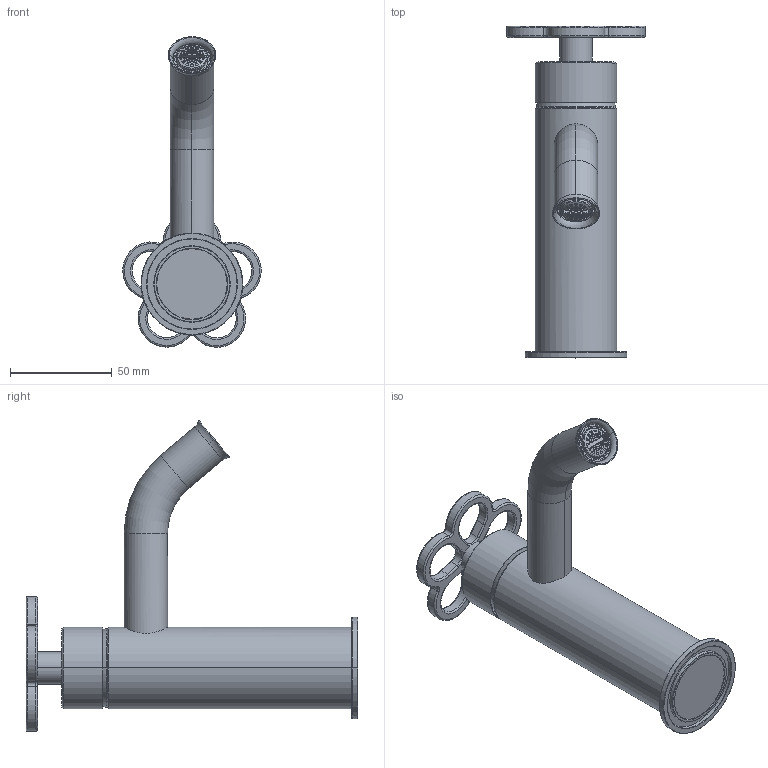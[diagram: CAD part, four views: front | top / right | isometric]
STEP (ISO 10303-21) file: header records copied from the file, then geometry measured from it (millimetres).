
FILE_DESCRIPTION((''),'2;1');
FILE_NAME('20930T504WF00000_SW0001','2023-01-31T16:54:01',('matteo.follador'),(''),'CREO PARAMETRIC BY PTC INC, 2020281','CREO PARAMETRIC BY PTC INC, 2020281','');
FILE_SCHEMA(('AUTOMOTIVE_DESIGN { 1 0 10303 214 1 1 1 1 }'));
Length unit declared in the file: millimetre
Products named in the file (1): 20930T504WF00000_SW0001
Bounding box: 67.92 x 162.7 x 152.28 mm (x, y, z)
Volume: 217815.4 mm3; surface area: 43340 mm2
Topology: 2 solids, 4 shells, 1068 faces, 2889 edges, 1886 vertices
Faces by surface type: plane 864, cylinder 94, torus 66, cone 38, sphere 6
Entity records: 39698 total; most frequent: CARTESIAN_POINT 6409, ORIENTED_EDGE 5778, DIRECTION 5625, EDGE_CURVE 2889, VECTOR 2266, LINE 2266, VERTEX_POINT 1886, AXIS2_PLACEMENT_3D 1678
